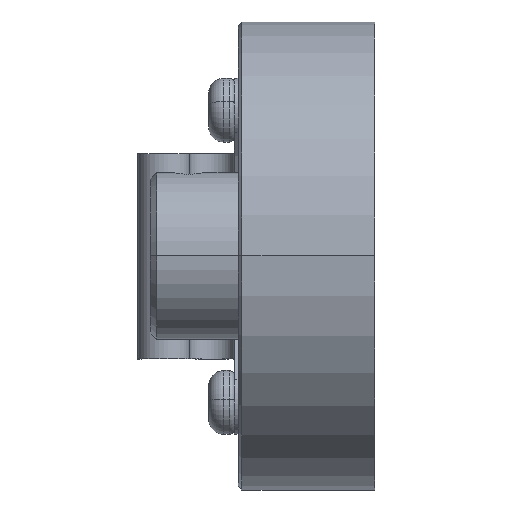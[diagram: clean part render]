
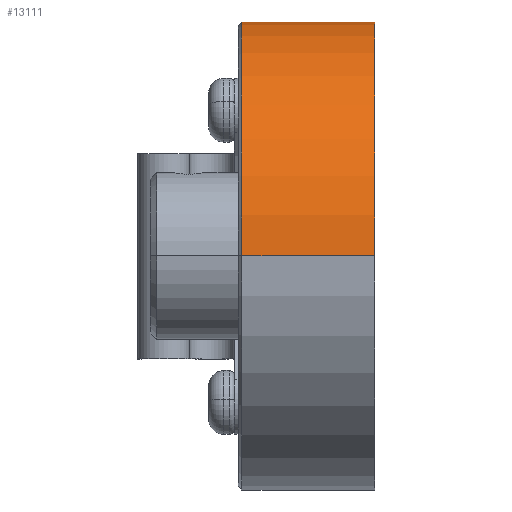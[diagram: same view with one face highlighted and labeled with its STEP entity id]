
A CAD part, top view. The second image highlights one B-rep face of the part: STEP entity #13111.
In plain terms, the highlighted cylindrical face has radius 18.25 mm (diameter 36.5 mm), a partial arc.
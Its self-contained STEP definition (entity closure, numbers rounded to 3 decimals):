
#262 = DIRECTION ( 'NONE',  ( -1., 0., 0. ) ) ;
#648 = EDGE_CURVE ( 'NONE', #2524, #6459, #4808, .T. ) ;
#1327 = EDGE_CURVE ( 'NONE', #2524, #12103, #3814, .T. ) ;
#1444 = ORIENTED_EDGE ( 'NONE', *, *, #2811, .T. ) ;
#1549 = ORIENTED_EDGE ( 'NONE', *, *, #1327, .F. ) ;
#1777 = ORIENTED_EDGE ( 'NONE', *, *, #648, .T. ) ;
#1817 = VECTOR ( 'NONE', #2111, 1000. ) ;
#2111 = DIRECTION ( 'NONE',  ( -1., 0., 0. ) ) ;
#2231 = EDGE_CURVE ( 'NONE', #7808, #12103, #11012, .T. ) ;
#2524 = VERTEX_POINT ( 'NONE', #3902 ) ;
#2547 = CARTESIAN_POINT ( 'NONE',  ( -11.65, 0., 0. ) ) ;
#2811 = EDGE_CURVE ( 'NONE', #6459, #7808, #12294, .T. ) ;
#2926 = ORIENTED_EDGE ( 'NONE', *, *, #2231, .T. ) ;
#3005 = EDGE_LOOP ( 'NONE', ( #1777, #1444, #2926, #1549 ) ) ;
#3241 = CARTESIAN_POINT ( 'NONE',  ( -1000., 0., -18.25 ) ) ;
#3471 = FACE_OUTER_BOUND ( 'NONE', #3005, .T. ) ;
#3514 = DIRECTION ( 'NONE',  ( 1., 0., 0. ) ) ;
#3814 = LINE ( 'NONE', #12672, #1817 ) ;
#3902 = CARTESIAN_POINT ( 'NONE',  ( -1.3, 0., 18.25 ) ) ;
#4808 = CIRCLE ( 'NONE', #6046, 18.25 ) ;
#5451 = DIRECTION ( 'NONE',  ( 0., 0., 1. ) ) ;
#6046 = AXIS2_PLACEMENT_3D ( 'NONE', #10829, #6682, #8660 ) ;
#6459 = VERTEX_POINT ( 'NONE', #9280 ) ;
#6682 = DIRECTION ( 'NONE',  ( -1., 0., 0. ) ) ;
#6703 = DIRECTION ( 'NONE',  ( 0., 0., 1. ) ) ;
#7808 = VERTEX_POINT ( 'NONE', #12432 ) ;
#8089 = AXIS2_PLACEMENT_3D ( 'NONE', #10676, #262, #5451 ) ;
#8660 = DIRECTION ( 'NONE',  ( 0., 0., 1. ) ) ;
#8682 = AXIS2_PLACEMENT_3D ( 'NONE', #2547, #3514, #6703 ) ;
#9280 = CARTESIAN_POINT ( 'NONE',  ( -1.3, 0., -18.25 ) ) ;
#9403 = CARTESIAN_POINT ( 'NONE',  ( -11.65, 0., 18.25 ) ) ;
#10014 = CYLINDRICAL_SURFACE ( 'NONE', #8089, 18.25 ) ;
#10601 = DIRECTION ( 'NONE',  ( -1., 0., 0. ) ) ;
#10676 = CARTESIAN_POINT ( 'NONE',  ( -1000., 0., 0. ) ) ;
#10829 = CARTESIAN_POINT ( 'NONE',  ( -1.3, 0., 0. ) ) ;
#11012 = CIRCLE ( 'NONE', #8682, 18.25 ) ;
#11299 = VECTOR ( 'NONE', #10601, 1000. ) ;
#12103 = VERTEX_POINT ( 'NONE', #9403 ) ;
#12294 = LINE ( 'NONE', #3241, #11299 ) ;
#12432 = CARTESIAN_POINT ( 'NONE',  ( -11.65, 0., -18.25 ) ) ;
#12672 = CARTESIAN_POINT ( 'NONE',  ( -1000., 0., 18.25 ) ) ;
#13111 = ADVANCED_FACE ( 'NONE', ( #3471 ), #10014, .T. ) ;
